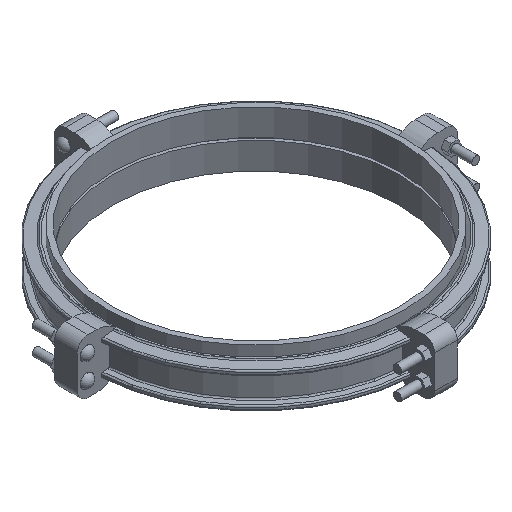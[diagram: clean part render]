
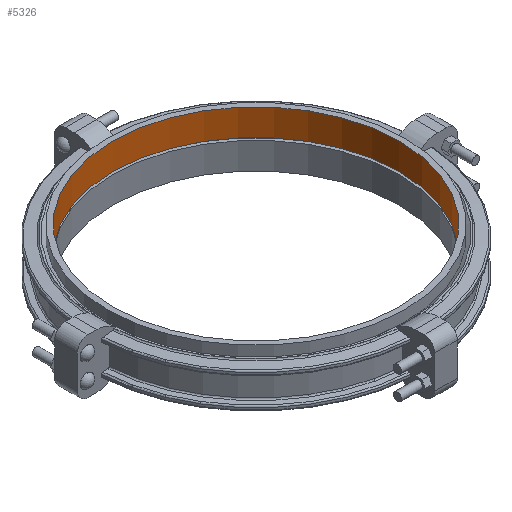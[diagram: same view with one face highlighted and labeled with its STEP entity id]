
A CAD part, isometric view. The second image highlights one B-rep face of the part: STEP entity #5326.
In plain terms, the highlighted cylindrical face has radius 685.8 mm (diameter 1371.6 mm), a full revolution.
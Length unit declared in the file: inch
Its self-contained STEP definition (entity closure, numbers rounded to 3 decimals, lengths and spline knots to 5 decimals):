
#270=CYLINDRICAL_SURFACE('',#5937,27.);
#588=FACE_OUTER_BOUND('',#906,.T.);
#906=EDGE_LOOP('',(#4630,#4631,#4632,#4633,#4634,#4635));
#1291=LINE('',#10065,#1674);
#1674=VECTOR('',#7388,27.);
#1927=CIRCLE('',#5935,27.);
#1928=CIRCLE('',#5936,27.);
#1929=CIRCLE('',#5938,27.);
#1930=CIRCLE('',#5939,27.);
#2431=VERTEX_POINT('',#10059);
#2432=VERTEX_POINT('',#10060);
#2433=VERTEX_POINT('',#10064);
#2434=VERTEX_POINT('',#10066);
#3165=EDGE_CURVE('',#2431,#2432,#1927,.T.);
#3166=EDGE_CURVE('',#2432,#2431,#1928,.T.);
#3167=EDGE_CURVE('',#2432,#2433,#1291,.T.);
#3168=EDGE_CURVE('',#2434,#2433,#1929,.T.);
#3169=EDGE_CURVE('',#2433,#2434,#1930,.T.);
#4630=ORIENTED_EDGE('',*,*,#3165,.T.);
#4631=ORIENTED_EDGE('',*,*,#3167,.T.);
#4632=ORIENTED_EDGE('',*,*,#3168,.F.);
#4633=ORIENTED_EDGE('',*,*,#3169,.F.);
#4634=ORIENTED_EDGE('',*,*,#3167,.F.);
#4635=ORIENTED_EDGE('',*,*,#3166,.T.);
#5326=ADVANCED_FACE('',(#588),#270,.F.);
#5935=AXIS2_PLACEMENT_3D('',#10061,#7382,#7383);
#5936=AXIS2_PLACEMENT_3D('',#10062,#7384,#7385);
#5937=AXIS2_PLACEMENT_3D('',#10063,#7386,#7387);
#5938=AXIS2_PLACEMENT_3D('',#10067,#7389,#7390);
#5939=AXIS2_PLACEMENT_3D('',#10068,#7391,#7392);
#7382=DIRECTION('center_axis',(0.,0.,-1.));
#7383=DIRECTION('ref_axis',(1.,0.,0.));
#7384=DIRECTION('center_axis',(0.,0.,-1.));
#7385=DIRECTION('ref_axis',(1.,0.,0.));
#7386=DIRECTION('center_axis',(0.,0.,-1.));
#7387=DIRECTION('ref_axis',(0.,1.,0.));
#7388=DIRECTION('',(0.,0.,1.));
#7389=DIRECTION('center_axis',(0.,0.,-1.));
#7390=DIRECTION('ref_axis',(1.,0.,0.));
#7391=DIRECTION('center_axis',(0.,0.,-1.));
#7392=DIRECTION('ref_axis',(1.,0.,0.));
#10059=CARTESIAN_POINT('',(0.,27.,0.));
#10060=CARTESIAN_POINT('',(0.,-27.,0.));
#10061=CARTESIAN_POINT('Origin',(0.,0.,0.));
#10062=CARTESIAN_POINT('Origin',(0.,0.,0.));
#10063=CARTESIAN_POINT('Origin',(0.,0.,2.5));
#10064=CARTESIAN_POINT('',(0.,-27.,5.));
#10065=CARTESIAN_POINT('',(0.,-27.,2.5));
#10066=CARTESIAN_POINT('',(0.,27.,5.));
#10067=CARTESIAN_POINT('Origin',(0.,0.,5.));
#10068=CARTESIAN_POINT('Origin',(0.,0.,5.));
